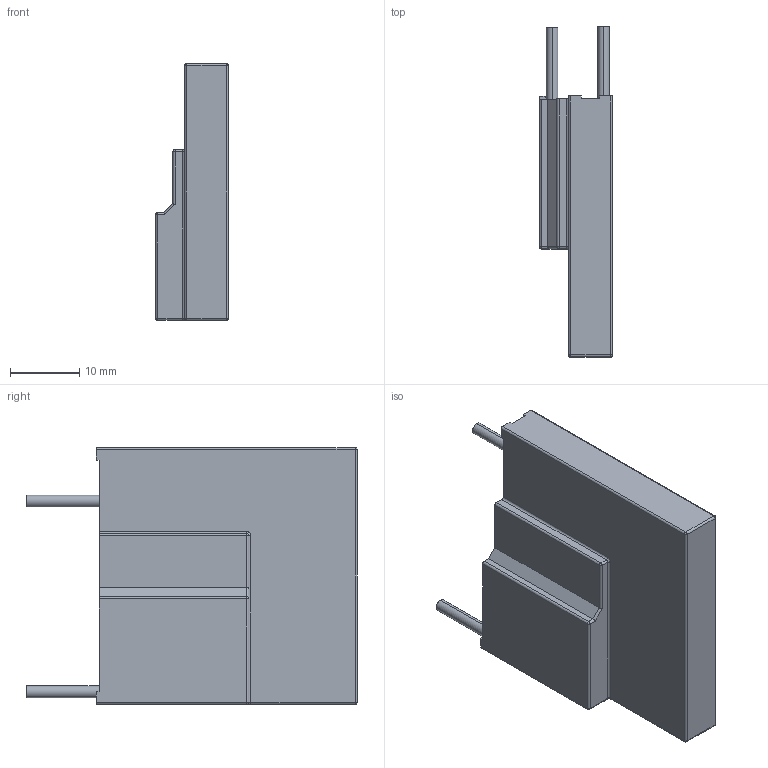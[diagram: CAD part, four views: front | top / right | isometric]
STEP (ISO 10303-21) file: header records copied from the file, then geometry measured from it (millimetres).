
FILE_DESCRIPTION((''),'2;1');
FILE_NAME('TFMOV34S','2020-07-15T13:22:30',('SET-00098'),(''),'CREO PARAMETRIC BY PTC INC, 2018400','CREO PARAMETRIC BY PTC INC, 2018400','');
FILE_SCHEMA(('CONFIG_CONTROL_DESIGN'));
Length unit declared in the file: millimetre
Products named in the file (1): TFMOV34S
Bounding box: 10.5 x 47.6 x 37 mm (x, y, z)
Volume: 10475.6 mm3; surface area: 4091.9 mm2
Topology: 1 solids, 1 shells, 66 faces, 159 edges, 97 vertices
Faces by surface type: plane 34, cylinder 23, sphere 7, torus 2
Entity records: 1939 total; most frequent: CARTESIAN_POINT 336, DIRECTION 333, ORIENTED_EDGE 318, EDGE_CURVE 159, VECTOR 113, LINE 113, AXIS2_PLACEMENT_3D 110, VERTEX_POINT 97
